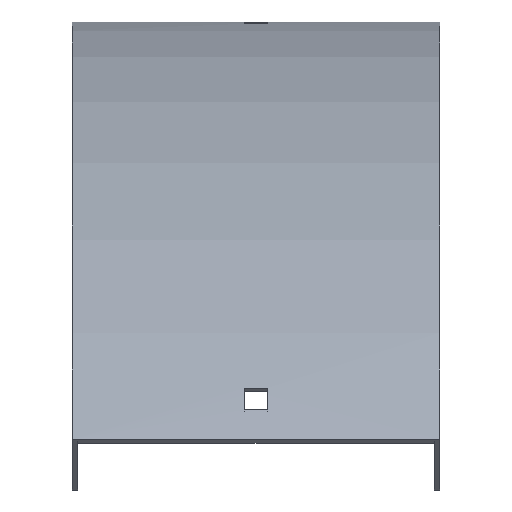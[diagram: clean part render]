
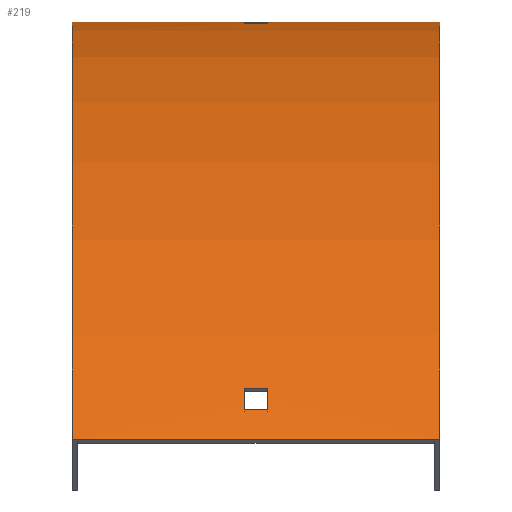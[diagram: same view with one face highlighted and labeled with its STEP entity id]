
A CAD part, top view. The second image highlights one B-rep face of the part: STEP entity #219.
In plain terms, the highlighted cylindrical face has radius 401.5 mm (diameter 803 mm), a partial arc.
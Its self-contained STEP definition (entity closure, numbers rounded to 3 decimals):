
#4 = VERTEX_POINT ( 'NONE', #64 ) ;
#8 = DIRECTION ( 'NONE',  ( -1., 0., 0. ) ) ;
#11 = LINE ( 'NONE', #504, #411 ) ;
#19 = CIRCLE ( 'NONE', #431, 401.5 ) ;
#36 = EDGE_LOOP ( 'NONE', ( #524, #261, #581, #502 ) ) ;
#38 = VECTOR ( 'NONE', #287, 1000. ) ;
#39 = CARTESIAN_POINT ( 'NONE',  ( 51.5, 0., 0. ) ) ;
#46 = ORIENTED_EDGE ( 'NONE', *, *, #563, .F. ) ;
#55 = EDGE_LOOP ( 'NONE', ( #461, #391, #169, #481 ) ) ;
#56 = DIRECTION ( 'NONE',  ( -1., 0., 0. ) ) ;
#59 = FACE_BOUND ( 'NONE', #55, .T. ) ;
#61 = VECTOR ( 'NONE', #56, 1000. ) ;
#64 = CARTESIAN_POINT ( 'NONE',  ( -3.25, -109.238, 275.291 ) ) ;
#69 = LINE ( 'NONE', #81, #188 ) ;
#70 = CIRCLE ( 'NONE', #94, 401.5 ) ;
#81 = CARTESIAN_POINT ( 'NONE',  ( 51.5, -0.55, 21. ) ) ;
#91 = CARTESIAN_POINT ( 'NONE',  ( 3.25, -103.136, 268.666 ) ) ;
#94 = AXIS2_PLACEMENT_3D ( 'NONE', #416, #132, #172 ) ;
#96 = VERTEX_POINT ( 'NONE', #214 ) ;
#99 = ORIENTED_EDGE ( 'NONE', *, *, #386, .T. ) ;
#108 = DIRECTION ( 'NONE',  ( 1., 0., 0. ) ) ;
#117 = EDGE_CURVE ( 'NONE', #119, #463, #535, .T. ) ;
#119 = VERTEX_POINT ( 'NONE', #39 ) ;
#123 = DIRECTION ( 'NONE',  ( -1., 0., 0. ) ) ;
#128 = ORIENTED_EDGE ( 'NONE', *, *, #117, .F. ) ;
#132 = DIRECTION ( 'NONE',  ( 1., 0., 0. ) ) ;
#138 = VECTOR ( 'NONE', #163, 1000. ) ;
#140 = FACE_OUTER_BOUND ( 'NONE', #256, .T. ) ;
#144 = LINE ( 'NONE', #274, #61 ) ;
#149 = VERTEX_POINT ( 'NONE', #592 ) ;
#156 = LINE ( 'NONE', #426, #38 ) ;
#163 = DIRECTION ( 'NONE',  ( 1., 0., 0. ) ) ;
#167 = AXIS2_PLACEMENT_3D ( 'NONE', #462, #405, #547 ) ;
#168 = DIRECTION ( 'NONE',  ( 0., 0., -1. ) ) ;
#169 = ORIENTED_EDGE ( 'NONE', *, *, #433, .F. ) ;
#172 = DIRECTION ( 'NONE',  ( 0., 0., -1. ) ) ;
#176 = VECTOR ( 'NONE', #190, 1000. ) ;
#186 = CYLINDRICAL_SURFACE ( 'NONE', #503, 401.5 ) ;
#188 = VECTOR ( 'NONE', #123, 1000. ) ;
#190 = DIRECTION ( 'NONE',  ( -1., 0., 0. ) ) ;
#191 = VERTEX_POINT ( 'NONE', #603 ) ;
#193 = AXIS2_PLACEMENT_3D ( 'NONE', #543, #341, #485 ) ;
#203 = EDGE_CURVE ( 'NONE', #265, #96, #11, .T. ) ;
#214 = CARTESIAN_POINT ( 'NONE',  ( -3.25, -103.136, 268.666 ) ) ;
#219 = ADVANCED_FACE ( 'NONE', ( #140, #278, #59 ), #186, .T. ) ;
#223 = CARTESIAN_POINT ( 'NONE',  ( 51.5, -401.5, 0. ) ) ;
#232 = CARTESIAN_POINT ( 'NONE',  ( -3.25, -0.179, 12. ) ) ;
#236 = EDGE_CURVE ( 'NONE', #119, #366, #144, .T. ) ;
#237 = CARTESIAN_POINT ( 'NONE',  ( 3.25, -0.55, 21. ) ) ;
#238 = VERTEX_POINT ( 'NONE', #232 ) ;
#241 = AXIS2_PLACEMENT_3D ( 'NONE', #522, #108, #168 ) ;
#248 = ORIENTED_EDGE ( 'NONE', *, *, #236, .T. ) ;
#251 = VERTEX_POINT ( 'NONE', #546 ) ;
#256 = EDGE_LOOP ( 'NONE', ( #99, #46, #128, #248 ) ) ;
#257 = AXIS2_PLACEMENT_3D ( 'NONE', #530, #394, #308 ) ;
#261 = ORIENTED_EDGE ( 'NONE', *, *, #266, .T. ) ;
#265 = VERTEX_POINT ( 'NONE', #91 ) ;
#266 = EDGE_CURVE ( 'NONE', #149, #238, #562, .T. ) ;
#274 = CARTESIAN_POINT ( 'NONE',  ( 51.5, 0., 0. ) ) ;
#278 = FACE_BOUND ( 'NONE', #36, .T. ) ;
#281 = DIRECTION ( 'NONE',  ( -1., 0., 0. ) ) ;
#287 = DIRECTION ( 'NONE',  ( 1., 0., 0. ) ) ;
#308 = DIRECTION ( 'NONE',  ( 0., 0., -1. ) ) ;
#321 = EDGE_CURVE ( 'NONE', #4, #597, #156, .T. ) ;
#323 = DIRECTION ( 'NONE',  ( 0., 0., 1. ) ) ;
#337 = LINE ( 'NONE', #348, #138 ) ;
#341 = DIRECTION ( 'NONE',  ( 1., 0., 0. ) ) ;
#348 = CARTESIAN_POINT ( 'NONE',  ( 51.5, -0.179, 12. ) ) ;
#352 = CARTESIAN_POINT ( 'NONE',  ( 51.5, -117.597, 283.903 ) ) ;
#354 = VERTEX_POINT ( 'NONE', #237 ) ;
#359 = LINE ( 'NONE', #599, #176 ) ;
#366 = VERTEX_POINT ( 'NONE', #517 ) ;
#386 = EDGE_CURVE ( 'NONE', #366, #191, #483, .T. ) ;
#391 = ORIENTED_EDGE ( 'NONE', *, *, #203, .F. ) ;
#394 = DIRECTION ( 'NONE',  ( 1., 0., 0. ) ) ;
#400 = DIRECTION ( 'NONE',  ( 0., 0., 1. ) ) ;
#405 = DIRECTION ( 'NONE',  ( -1., 0., 0. ) ) ;
#406 = EDGE_CURVE ( 'NONE', #354, #149, #69, .T. ) ;
#411 = VECTOR ( 'NONE', #281, 1000. ) ;
#416 = CARTESIAN_POINT ( 'NONE',  ( 3.25, -401.5, 0. ) ) ;
#426 = CARTESIAN_POINT ( 'NONE',  ( 51.5, -109.238, 275.291 ) ) ;
#431 = AXIS2_PLACEMENT_3D ( 'NONE', #583, #589, #400 ) ;
#433 = EDGE_CURVE ( 'NONE', #597, #265, #19, .T. ) ;
#453 = CARTESIAN_POINT ( 'NONE',  ( 3.25, -109.238, 275.291 ) ) ;
#461 = ORIENTED_EDGE ( 'NONE', *, *, #477, .F. ) ;
#462 = CARTESIAN_POINT ( 'NONE',  ( -3.25, -401.5, 0. ) ) ;
#463 = VERTEX_POINT ( 'NONE', #352 ) ;
#469 = EDGE_CURVE ( 'NONE', #238, #251, #337, .T. ) ;
#477 = EDGE_CURVE ( 'NONE', #96, #4, #528, .T. ) ;
#481 = ORIENTED_EDGE ( 'NONE', *, *, #321, .F. ) ;
#483 = CIRCLE ( 'NONE', #241, 401.5 ) ;
#485 = DIRECTION ( 'NONE',  ( 0., 0., -1. ) ) ;
#502 = ORIENTED_EDGE ( 'NONE', *, *, #593, .T. ) ;
#503 = AXIS2_PLACEMENT_3D ( 'NONE', #223, #8, #323 ) ;
#504 = CARTESIAN_POINT ( 'NONE',  ( 51.5, -103.136, 268.666 ) ) ;
#517 = CARTESIAN_POINT ( 'NONE',  ( -51.5, 0., 0. ) ) ;
#522 = CARTESIAN_POINT ( 'NONE',  ( -51.5, -401.5, 0. ) ) ;
#524 = ORIENTED_EDGE ( 'NONE', *, *, #406, .T. ) ;
#528 = CIRCLE ( 'NONE', #257, 401.5 ) ;
#530 = CARTESIAN_POINT ( 'NONE',  ( -3.25, -401.5, 0. ) ) ;
#535 = CIRCLE ( 'NONE', #193, 401.5 ) ;
#543 = CARTESIAN_POINT ( 'NONE',  ( 51.5, -401.5, 0. ) ) ;
#546 = CARTESIAN_POINT ( 'NONE',  ( 3.25, -0.179, 12. ) ) ;
#547 = DIRECTION ( 'NONE',  ( 0., 0., 1. ) ) ;
#562 = CIRCLE ( 'NONE', #167, 401.5 ) ;
#563 = EDGE_CURVE ( 'NONE', #463, #191, #359, .T. ) ;
#581 = ORIENTED_EDGE ( 'NONE', *, *, #469, .T. ) ;
#583 = CARTESIAN_POINT ( 'NONE',  ( 3.25, -401.5, 0. ) ) ;
#589 = DIRECTION ( 'NONE',  ( -1., 0., 0. ) ) ;
#592 = CARTESIAN_POINT ( 'NONE',  ( -3.25, -0.55, 21. ) ) ;
#593 = EDGE_CURVE ( 'NONE', #251, #354, #70, .T. ) ;
#597 = VERTEX_POINT ( 'NONE', #453 ) ;
#599 = CARTESIAN_POINT ( 'NONE',  ( 51.5, -117.597, 283.903 ) ) ;
#603 = CARTESIAN_POINT ( 'NONE',  ( -51.5, -117.597, 283.903 ) ) ;
